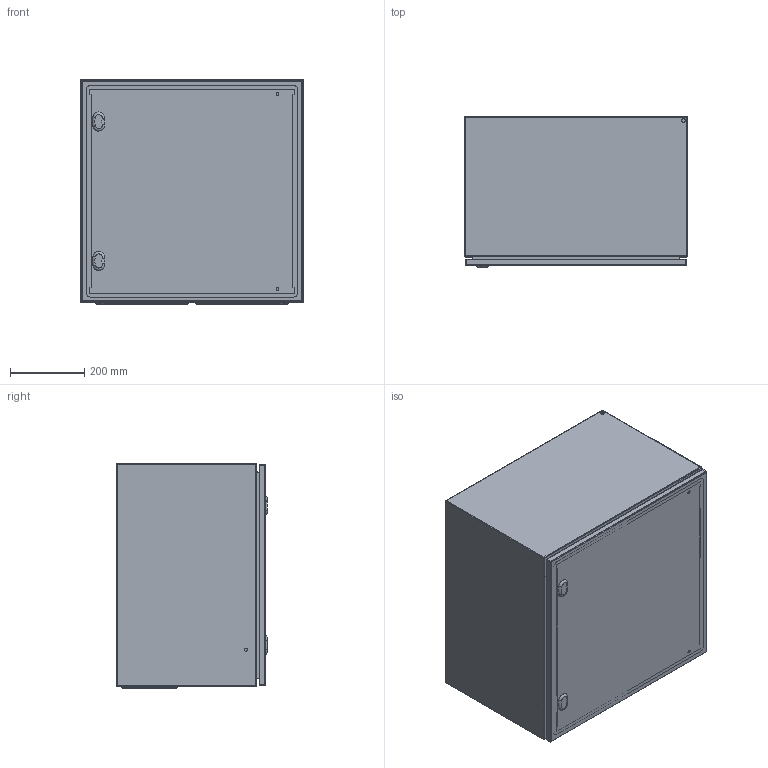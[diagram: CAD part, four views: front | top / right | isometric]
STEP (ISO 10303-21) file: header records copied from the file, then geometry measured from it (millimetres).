
FILE_DESCRIPTION(/* description */ ('STEP AP214'),/* implementation_level */ '2;1');
FILE_NAME(/* name */ 'EC060640-LOD400',/* time_stamp */ '2025-07-31T14:51:03+02:00',/* author */ ('License CC BY-ND 4.0'),/* organization */ ('CADENAS'),/* preprocessor_version */ 'ST-DEVELOPER v19.3',/* originating_system */ 'PARTsolutions',/* authorisation */ ' ');
FILE_SCHEMA (('AUTOMOTIVE_DESIGN {1 0 10303 214 3 1 1}'));
Length unit declared in the file: millimetre
Products named in the file (5): EC060640-LOD400; EC060640-LOD400_cabinet; EC060640-LOD400_door; EC060640-LOD400_bottom_plate; EC060640-LOD400_inner_plate
Assembly tree (5 placements, depth 2):
  EC060640-LOD400
    EC060640-LOD400_cabinet
    EC060640-LOD400_door
    EC060640-LOD400_bottom_plate  x2
    EC060640-LOD400_inner_plate
Bounding box: 600 x 405 x 604 mm (x, y, z)
Volume: 3470417.3 mm3; surface area: 4231297.7 mm2
Topology: 5 solids, 5 shells, 670 faces, 1584 edges, 1018 vertices
Faces by surface type: cylinder 268, plane 244, torus 80, cone 78
Full cylindrical faces by diameter (mm): 1 x64, 4.5 x54, 5 x4, 5.5 x4, 6 x4, 7 x4, 8 x12, 10 x10, 14 x4
Entity records: 14263 total; most frequent: DIRECTION 2608, CARTESIAN_POINT 2296, ORIENTED_EDGE 2044, AXIS2_PLACEMENT_3D 1074, EDGE_CURVE 1022, EDGE_LOOP 916, FACE_BOUND 916, VERTEX_POINT 762
